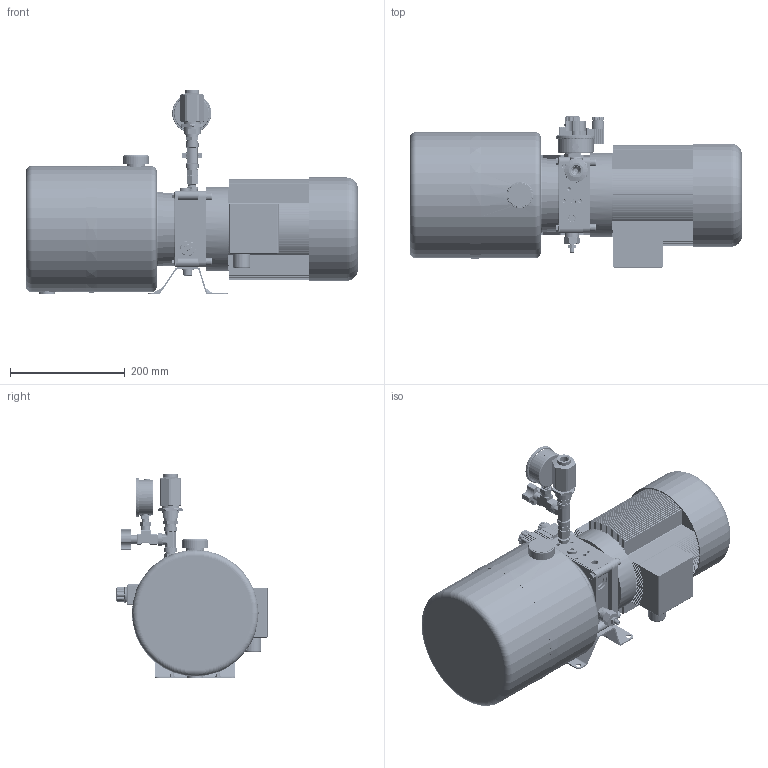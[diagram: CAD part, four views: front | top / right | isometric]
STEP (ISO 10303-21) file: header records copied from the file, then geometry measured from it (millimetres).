
FILE_DESCRIPTION(/* description */ (''),/* implementation_level */ '2;1');
FILE_NAME(/* name */ 'C:\Users\stolbov\Documents\Inventor\!Хлам\PPC-KV-S_Lift010-2,2-230-4,8.stp',/* time_stamp */ '2019-05-28T15:53:40+03:00',/* author */ ('stolbov'),/* organization */ (''),/* preprocessor_version */ 'ST-DEVELOPER v18',/* originating_system */ 'Autodesk Inventor 2020',/* authorisation */ '');
FILE_SCHEMA (('AUTOMOTIVE_DESIGN { 1 0 10303 214 3 1 1 }'));
Products named in the file (1): Деталь6
Bounding box: 578.62 x 263.19 x 356.3 mm (x, y, z)
Volume: 7045948.1 mm3; surface area: 1855703.2 mm2
Topology: 60 solids, 68 shells, 4193 faces, 11494 edges, 7659 vertices
Faces by surface type: plane 1974, cylinder 1634, cone 356, torus 152, bspline 64, sphere 13
Full cylindrical faces by diameter (mm): 0.2 x1, 0.7 x1, 0.75 x1, 1.5 x2, 2 x1, 2.459 x1, 3 x3, 3.6 x1, 4 x9, 4.134 x8, 4.917 x36, 5 x4, 5.5 x4, 5.88 x1, 6 x8, 6.3 x1, 6.5 x7, 6.647 x20, 7 x1, 7.5 x6, 8 x14, 8.376 x4, 8.5 x3, 8.8 x4, 9 x4, 9.285 x1, 9.5 x1, 9.8 x3, 9.91 x3, 10 x4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
Entity records: 157037 total; most frequent: CARTESIAN_POINT 43065, DIRECTION 23802, ORIENTED_EDGE 22946, EDGE_CURVE 11473, AXIS2_PLACEMENT_3D 9045, VERTEX_POINT 7659, LINE 5712, VECTOR 5712
